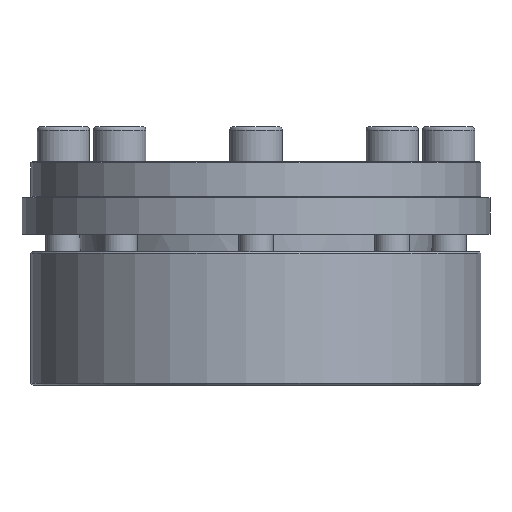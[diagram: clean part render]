
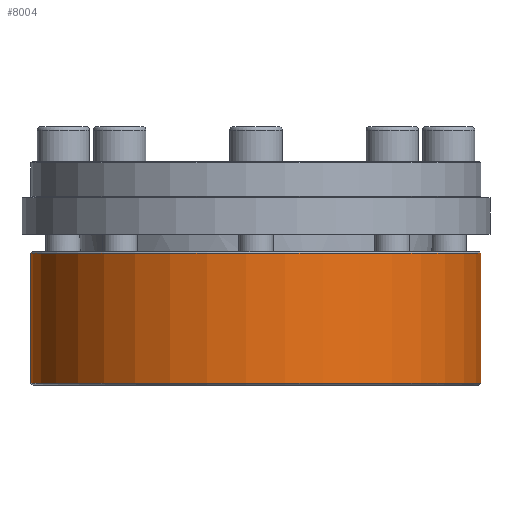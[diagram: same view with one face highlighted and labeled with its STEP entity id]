
A CAD part, front view. The second image highlights one B-rep face of the part: STEP entity #8004.
In plain terms, the highlighted cylindrical face has radius 77.5 mm (diameter 155 mm), a partial arc.
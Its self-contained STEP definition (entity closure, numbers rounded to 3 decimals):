
#2974=CARTESIAN_POINT('',(0.,0.,
-51.25));
#2975=DIRECTION('',(0.,0.,1.));
#2976=DIRECTION('',(0.371,0.929,0.));
#2977=AXIS2_PLACEMENT_3D('',#2974,#2975,#2976);
#2992=DIRECTION('',(0.,0.,-1.));
#2993=VECTOR('',#2992,44.75);
#2994=CARTESIAN_POINT('',(28.732,71.977,-6.5));
#2995=LINE('',#2994,#2993);
#2999=DIRECTION('',(0.,0.,-1.));
#3000=VECTOR('',#2999,44.75);
#3001=CARTESIAN_POINT('',(30.579,71.212,-6.5));
#3002=LINE('',#3001,#3000);
#3006=CARTESIAN_POINT('',(0.,0.,
-6.5));
#3007=DIRECTION('',(0.,0.,-1.));
#3008=DIRECTION('',(0.395,0.919,0.));
#3009=AXIS2_PLACEMENT_3D('',#3006,#3007,#3008);
#6317=CARTESIAN_POINT('',(30.579,71.212,-6.5));
#6318=CARTESIAN_POINT('',(30.579,71.212,-51.25));
#6319=VERTEX_POINT('',#6317);
#6320=VERTEX_POINT('',#6318);
#6343=CARTESIAN_POINT('',(28.732,71.977,-6.5));
#6344=CARTESIAN_POINT('',(28.732,71.977,-51.25));
#6345=VERTEX_POINT('',#6343);
#6346=VERTEX_POINT('',#6344);
#7992=CARTESIAN_POINT('',(0.,0.,-3.7));
#7993=DIRECTION('',(0.,0.,-1.));
#7994=DIRECTION('',(0.,-1.,0.));
#7995=AXIS2_PLACEMENT_3D('',#7992,#7993,#7994);
#7996=CYLINDRICAL_SURFACE('',#7995,77.5);
#7997=ORIENTED_EDGE('',*,*,#7974,.F.);
#7998=ORIENTED_EDGE('',*,*,#6687,.F.);
#8000=ORIENTED_EDGE('',*,*,#7999,.F.);
#8001=ORIENTED_EDGE('',*,*,#6832,.T.);
#8002=EDGE_LOOP('',(#7997,#7998,#8000,#8001));
#8003=FACE_OUTER_BOUND('',#8002,.F.);
#8004=ADVANCED_FACE('',(#8003),#7996,.T.);
#2978=CIRCLE('',#2977,77.5);
#3010=CIRCLE('',#3009,77.5);
#6687=EDGE_CURVE('',#6345,#6346,#2995,.T.);
#6832=EDGE_CURVE('',#6319,#6320,#3002,.T.);
#7974=EDGE_CURVE('',#6346,#6320,#2978,.T.);
#7999=EDGE_CURVE('',#6319,#6345,#3010,.T.);
